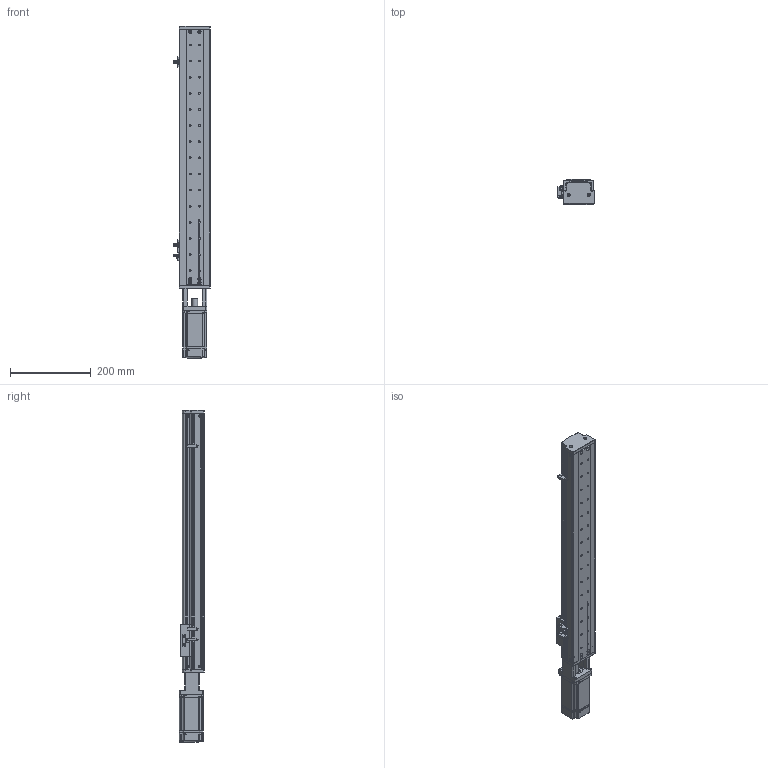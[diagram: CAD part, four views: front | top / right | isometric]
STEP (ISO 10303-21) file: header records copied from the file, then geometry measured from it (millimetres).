
FILE_DESCRIPTION (( 'STEP AP214' ), '1' );
FILE_NAME ('KSD75S-S480-MT-CM.STEP', '2019-10-18T07:32:25', ( '微软用户' ), ( '微软中国' ), 'SwSTEP 2.0', 'SolidWorks 2014', '' );
FILE_SCHEMA (( 'AUTOMOTIVE_DESIGN' ));
Length unit declared in the file: millimetre
Products named in the file (12): MHMD042G1CA_2_03; 覜茼え100遵圉猾敕; U倰嫖萇EEㄜSX672; 綴傷啣 ; 100遵鎮湛假蚾啣1 ; ヶ傷啣; 75裔啣-480俴最; 75遵耀郪耜啣-480俴最; 75遵賑雄釱; MGW15H賑寢480俴最 ; 480俴最; KSD75S-S480-MT-CM
Assembly tree (14 placements, depth 3):
  KSD75S-S480-MT-CM
    MGW15H賑寢480俴最 
      480俴最
    75遵賑雄釱
    75遵耀郪耜啣-480俴最  x2
    75裔啣-480俴最
    ヶ傷啣
    100遵鎮湛假蚾啣1 
    綴傷啣 
    U倰嫖萇EEㄜSX672  x3
    覜茼え100遵圉猾敕
    MHMD042G1CA_2_03
Bounding box: 91.7 x 63 x 823.5 mm (x, y, z)
Volume: 841470.9 mm3; surface area: 526936.2 mm2
Topology: 12 solids, 13 shells, 1426 faces, 4029 edges, 2627 vertices
Faces by surface type: cylinder 676, plane 603, cone 129, bspline 18
Entity records: 45820 total; most frequent: CARTESIAN_POINT 8697, DIRECTION 6793, ORIENTED_EDGE 6338, EDGE_CURVE 3240, AXIS2_PLACEMENT_3D 2502, VERTEX_POINT 2145, LINE 1789, VECTOR 1789
